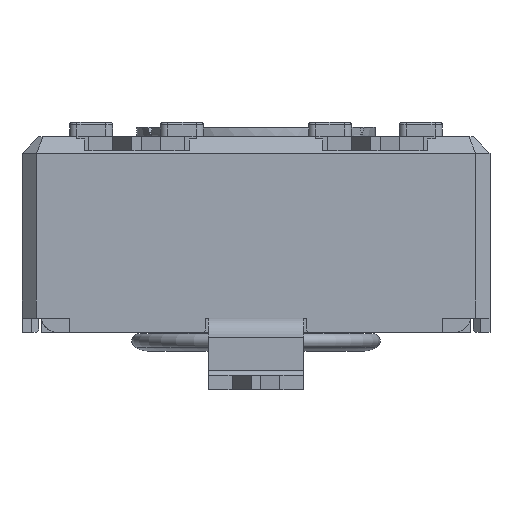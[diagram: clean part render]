
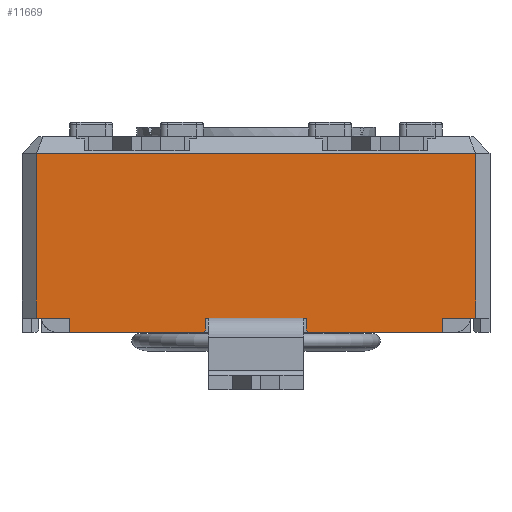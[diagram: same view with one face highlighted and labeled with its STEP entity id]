
A CAD part, front view. The second image highlights one B-rep face of the part: STEP entity #11669.
In plain terms, the highlighted planar face has unit normal (0, -1, 0).
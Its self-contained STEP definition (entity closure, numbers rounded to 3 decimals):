
#1038=FACE_OUTER_BOUND('',#1641,.T.);
#1641=EDGE_LOOP('',(#10405,#10406,#10407,#10408,#10409,#10410,#10411,#10412,
#10413,#10414,#10415,#10416,#10417,#10418,#10419,#10420));
#1696=LINE('',#15821,#3057);
#2305=LINE('',#17282,#3666);
#2311=LINE('',#17294,#3672);
#2319=LINE('',#17310,#3680);
#2325=LINE('',#17321,#3686);
#2489=LINE('',#17842,#3850);
#2495=LINE('',#17852,#3856);
#2498=LINE('',#17859,#3859);
#2511=LINE('',#17884,#3872);
#2567=LINE('',#17992,#3928);
#2569=LINE('',#17997,#3930);
#2571=LINE('',#18000,#3932);
#2573=LINE('',#18005,#3934);
#2759=LINE('',#18450,#4120);
#3002=LINE('',#19011,#4363);
#3004=LINE('',#19018,#4365);
#3057=VECTOR('',#12729,10.);
#3666=VECTOR('',#14018,10.);
#3672=VECTOR('',#14024,10.);
#3680=VECTOR('',#14034,10.);
#3686=VECTOR('',#14040,10.);
#3850=VECTOR('',#14512,10.);
#3856=VECTOR('',#14520,10.);
#3859=VECTOR('',#14527,10.);
#3872=VECTOR('',#14548,10.);
#3928=VECTOR('',#14648,10.);
#3930=VECTOR('',#14656,10.);
#3932=VECTOR('',#14660,10.);
#3934=VECTOR('',#14668,10.);
#4120=VECTOR('',#15092,10.);
#4363=VECTOR('',#15631,10.);
#4365=VECTOR('',#15643,10.);
#4407=VERTEX_POINT('',#15773);
#4420=VERTEX_POINT('',#15820);
#4932=VERTEX_POINT('',#17281);
#4937=VERTEX_POINT('',#17291);
#4938=VERTEX_POINT('',#17293);
#4944=VERTEX_POINT('',#17307);
#4945=VERTEX_POINT('',#17309);
#4950=VERTEX_POINT('',#17319);
#5098=VERTEX_POINT('',#17840);
#5099=VERTEX_POINT('',#17841);
#5102=VERTEX_POINT('',#17850);
#5103=VERTEX_POINT('',#17857);
#5104=VERTEX_POINT('',#17858);
#5112=VERTEX_POINT('',#17883);
#5257=VERTEX_POINT('',#18447);
#5258=VERTEX_POINT('',#18449);
#5510=EDGE_CURVE('',#4420,#4407,#1696,.T.);
#6245=EDGE_CURVE('',#4932,#4420,#2305,.T.);
#6251=EDGE_CURVE('',#4938,#4937,#2311,.T.);
#6259=EDGE_CURVE('',#4945,#4944,#2319,.T.);
#6265=EDGE_CURVE('',#4407,#4950,#2325,.T.);
#6507=EDGE_CURVE('',#5098,#5099,#2489,.T.);
#6513=EDGE_CURVE('',#5098,#5102,#2495,.T.);
#6516=EDGE_CURVE('',#5103,#5104,#2498,.T.);
#6529=EDGE_CURVE('',#5112,#5104,#2511,.T.);
#6585=EDGE_CURVE('',#4932,#5103,#2567,.T.);
#6587=EDGE_CURVE('',#4937,#5112,#2569,.T.);
#6589=EDGE_CURVE('',#4945,#5102,#2571,.T.);
#6591=EDGE_CURVE('',#4950,#5099,#2573,.T.);
#6811=EDGE_CURVE('',#5257,#5258,#2759,.T.);
#7090=EDGE_CURVE('',#5258,#4944,#3002,.T.);
#7092=EDGE_CURVE('',#5257,#4938,#3004,.T.);
#10405=ORIENTED_EDGE('',*,*,#6507,.F.);
#10406=ORIENTED_EDGE('',*,*,#6513,.T.);
#10407=ORIENTED_EDGE('',*,*,#6589,.F.);
#10408=ORIENTED_EDGE('',*,*,#6259,.T.);
#10409=ORIENTED_EDGE('',*,*,#7090,.F.);
#10410=ORIENTED_EDGE('',*,*,#6811,.F.);
#10411=ORIENTED_EDGE('',*,*,#7092,.T.);
#10412=ORIENTED_EDGE('',*,*,#6251,.T.);
#10413=ORIENTED_EDGE('',*,*,#6587,.T.);
#10414=ORIENTED_EDGE('',*,*,#6529,.T.);
#10415=ORIENTED_EDGE('',*,*,#6516,.F.);
#10416=ORIENTED_EDGE('',*,*,#6585,.F.);
#10417=ORIENTED_EDGE('',*,*,#6245,.T.);
#10418=ORIENTED_EDGE('',*,*,#5510,.T.);
#10419=ORIENTED_EDGE('',*,*,#6265,.T.);
#10420=ORIENTED_EDGE('',*,*,#6591,.T.);
#10888=PLANE('',#12556);
#11669=ADVANCED_FACE('',(#1038),#10888,.T.);
#12556=AXIS2_PLACEMENT_3D('',#19019,#15644,#15645);
#12729=DIRECTION('',(1.,0.,0.));
#14018=DIRECTION('',(1.,0.,0.));
#14024=DIRECTION('',(1.,0.,0.));
#14034=DIRECTION('',(1.,0.,0.));
#14040=DIRECTION('',(1.,0.,0.));
#14512=DIRECTION('',(-0.707,0.,0.707));
#14520=DIRECTION('',(1.,0.,0.));
#14527=DIRECTION('',(-0.707,0.,-0.707));
#14548=DIRECTION('',(1.,0.,0.));
#14648=DIRECTION('',(0.,0.,-1.));
#14656=DIRECTION('',(0.,0.,-1.));
#14660=DIRECTION('',(0.,0.,-1.));
#14668=DIRECTION('',(0.,0.,-1.));
#15092=DIRECTION('',(1.,0.,0.));
#15631=DIRECTION('',(0.,0.,-1.));
#15643=DIRECTION('',(0.,0.,-1.));
#15644=DIRECTION('center_axis',(0.,-1.,0.));
#15645=DIRECTION('ref_axis',(0.,0.,-1.));
#15773=CARTESIAN_POINT('',(-25.448,-17.99,-3.8));
#15820=CARTESIAN_POINT('',(-27.448,-17.99,-3.8));
#15821=CARTESIAN_POINT('',(-21.848,-17.99,-3.8));
#17281=CARTESIAN_POINT('',(-27.498,-17.99,-3.8));
#17282=CARTESIAN_POINT('',(-21.848,-17.99,-3.8));
#17291=CARTESIAN_POINT('',(-30.348,-17.99,-3.8));
#17293=CARTESIAN_POINT('',(-31.048,-17.99,-3.8));
#17294=CARTESIAN_POINT('',(-21.848,-17.99,-3.8));
#17307=CARTESIAN_POINT('',(-21.848,-17.99,-3.8));
#17309=CARTESIAN_POINT('',(-22.548,-17.99,-3.8));
#17310=CARTESIAN_POINT('',(-21.848,-17.99,-3.8));
#17319=CARTESIAN_POINT('',(-25.398,-17.99,-3.8));
#17321=CARTESIAN_POINT('',(-21.848,-17.99,-3.8));
#17840=CARTESIAN_POINT('',(-25.348,-17.99,-4.1));
#17841=CARTESIAN_POINT('',(-25.398,-17.99,-4.05));
#17842=CARTESIAN_POINT('',(-27.81,-17.99,-1.637));
#17850=CARTESIAN_POINT('',(-22.548,-17.99,-4.1));
#17852=CARTESIAN_POINT('',(-21.848,-17.99,-4.1));
#17857=CARTESIAN_POINT('',(-27.498,-17.99,-4.05));
#17858=CARTESIAN_POINT('',(-27.548,-17.99,-4.1));
#17859=CARTESIAN_POINT('',(-27.385,-17.99,-3.938));
#17883=CARTESIAN_POINT('',(-30.348,-17.99,-4.1));
#17884=CARTESIAN_POINT('',(-21.848,-17.99,-4.1));
#17992=CARTESIAN_POINT('',(-27.498,-17.99,-3.8));
#17997=CARTESIAN_POINT('',(-30.348,-17.99,-3.8));
#18000=CARTESIAN_POINT('',(-22.548,-17.99,-3.8));
#18005=CARTESIAN_POINT('',(-25.398,-17.99,-3.8));
#18447=CARTESIAN_POINT('',(-31.048,-17.99,-0.35));
#18449=CARTESIAN_POINT('',(-21.848,-17.99,-0.35));
#18450=CARTESIAN_POINT('',(-28.748,-17.99,-0.35));
#19011=CARTESIAN_POINT('',(-21.848,-17.99,0.));
#19018=CARTESIAN_POINT('',(-31.048,-17.99,0.));
#19019=CARTESIAN_POINT('Origin',(-31.048,-17.99,0.));
